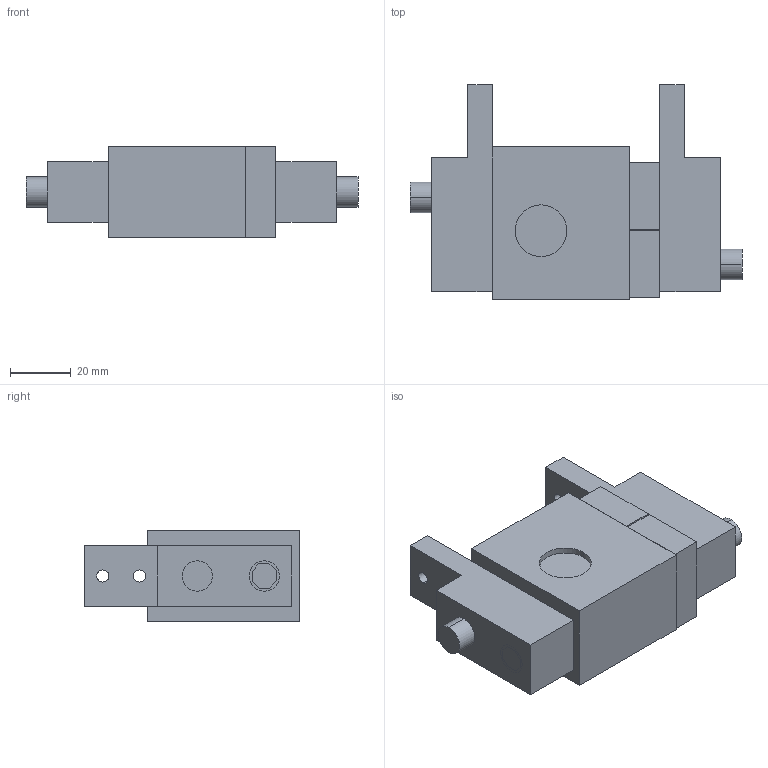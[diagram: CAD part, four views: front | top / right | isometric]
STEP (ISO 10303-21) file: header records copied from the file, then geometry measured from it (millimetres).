
FILE_DESCRIPTION (( 'STEP AP203' ), '1' );
FILE_NAME ('GDL.20-close.STEP', '2011-11-07T09:53:07', ( 'Christophe Gaillard' ), ( 'SGA' ), 'SwSTEP 2.0', 'SolidWorks 2010', '' );
FILE_SCHEMA (( 'CONFIG_CONTROL_DESIGN' ));
Length unit declared in the file: millimetre
Products named in the file (5): corps; Pièce3; GDL.20-close; Pièce4; Pièce5
Assembly tree (6 placements, depth 2):
  GDL.20-close
    Pièce4  x2
    Pièce3
    corps
    Pièce5  x2
Bounding box: 109 x 70.5 x 30 mm (x, y, z)
Volume: 123380.5 mm3; surface area: 39342.1 mm2
Topology: 6 solids, 6 shells, 180 faces, 440 edges, 280 vertices
Faces by surface type: cylinder 86, plane 78, cone 16
Entity records: 4991 total; most frequent: DIRECTION 822, CARTESIAN_POINT 743, ORIENTED_EDGE 704, EDGE_CURVE 352, AXIS2_PLACEMENT_3D 311, VERTEX_POINT 232, EDGE_LOOP 202, VECTOR 200
